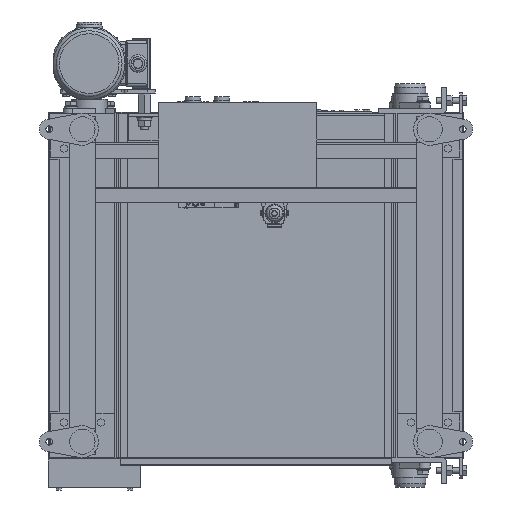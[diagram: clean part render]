
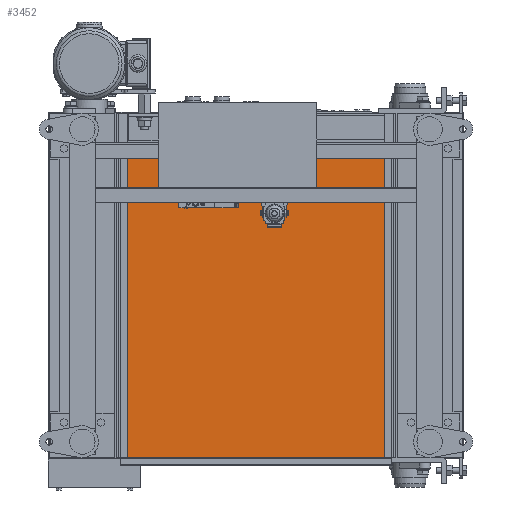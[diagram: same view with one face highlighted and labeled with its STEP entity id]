
A CAD part, front view. The second image highlights one B-rep face of the part: STEP entity #3452.
In plain terms, the highlighted planar face has unit normal (0, -1, 0).
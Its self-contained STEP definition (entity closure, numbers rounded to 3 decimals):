
#3452=ADVANCED_FACE('',(#7995),#7994,.F.);
#7994=PLANE('',#30377);
#7995=FACE_OUTER_BOUND('',#30378,.T.);
#30374=CARTESIAN_POINT('',(662.5,-165.,271.));
#30375=DIRECTION('',(0.,1.,0.));
#30376=DIRECTION('',(0.,0.,-1.));
#30377=AXIS2_PLACEMENT_3D('',#30374,#30375,#30376);
#30378=EDGE_LOOP('',(#44098,#44099,#44100,#44101));
#44098=ORIENTED_EDGE('',*,*,#55408,.F.);
#44099=ORIENTED_EDGE('',*,*,#55414,.F.);
#44100=ORIENTED_EDGE('',*,*,#55415,.F.);
#44101=ORIENTED_EDGE('',*,*,#55416,.F.);
#55408=EDGE_CURVE('',#65799,#65800,#65801,.T.);
#55414=EDGE_CURVE('',#65838,#65799,#65839,.T.);
#55415=EDGE_CURVE('',#65845,#65838,#65846,.T.);
#55416=EDGE_CURVE('',#65800,#65845,#65852,.T.);
#65799=VERTEX_POINT('',#103873);
#65800=VERTEX_POINT('',#103874);
#65801=LINE('',#103875,#103876);
#65838=VERTEX_POINT('',#103894);
#65839=LINE('',#103895,#103896);
#65845=VERTEX_POINT('',#103898);
#65846=LINE('',#103899,#103900);
#65852=LINE('',#103902,#103903);
#103873=CARTESIAN_POINT('',(652.5,-165.,261.));
#103874=CARTESIAN_POINT('',(652.5,-165.,-328.2));
#103875=CARTESIAN_POINT('',(652.5,-165.,261.));
#103876=VECTOR('',#103877,589.2);
#103877=DIRECTION('',(0.,0.,-1.));
#103894=CARTESIAN_POINT('',(137.5,-165.,261.));
#103895=CARTESIAN_POINT('',(137.5,-165.,261.));
#103896=VECTOR('',#103897,515.);
#103897=DIRECTION('',(1.,0.,0.));
#103898=CARTESIAN_POINT('',(137.5,-165.,-328.2));
#103899=CARTESIAN_POINT('',(137.5,-165.,-328.2));
#103900=VECTOR('',#103901,589.2);
#103901=DIRECTION('',(0.,0.,1.));
#103902=CARTESIAN_POINT('',(652.5,-165.,-328.2));
#103903=VECTOR('',#103904,515.);
#103904=DIRECTION('',(-1.,0.,0.));
